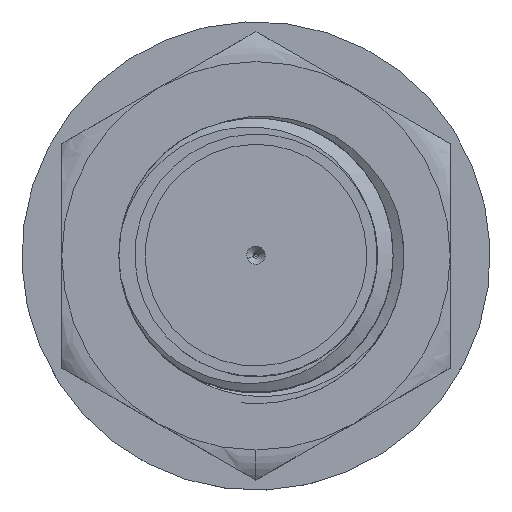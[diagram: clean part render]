
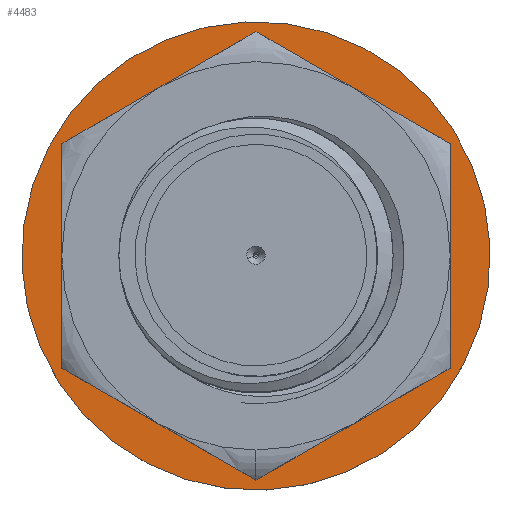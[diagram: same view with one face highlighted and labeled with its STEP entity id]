
A CAD part, top view. The second image highlights one B-rep face of the part: STEP entity #4483.
In plain terms, the highlighted planar face has unit normal (0, 0, 1).
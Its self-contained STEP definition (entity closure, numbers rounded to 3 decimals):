
#260 = DIRECTION ( 'NONE',  ( 1., 0., 0. ) ) ;
#1099 = DIRECTION ( 'NONE',  ( 0., 0., 1. ) ) ;
#2471 = CARTESIAN_POINT ( 'NONE',  ( 10.25, 0., 1. ) ) ;
#4483 = ADVANCED_FACE ( 'NONE', ( #9397, #20506 ), #7073, .T. ) ;
#5565 = ORIENTED_EDGE ( 'NONE', *, *, #12870, .F. ) ;
#5613 = EDGE_LOOP ( 'NONE', ( #5565, #22786 ) ) ;
#6371 = DIRECTION ( 'NONE',  ( 0., 0., 1. ) ) ;
#7073 = PLANE ( 'NONE',  #31179 ) ;
#8369 = DIRECTION ( 'NONE',  ( 1., 0., 0. ) ) ;
#9349 = EDGE_LOOP ( 'NONE', ( #14211, #19615 ) ) ;
#9397 = FACE_BOUND ( 'NONE', #5613, .T. ) ;
#12191 = DIRECTION ( 'NONE',  ( 1., 0., 0. ) ) ;
#12219 = DIRECTION ( 'NONE',  ( 0., 0., 1. ) ) ;
#12395 = VERTEX_POINT ( 'NONE', #2471 ) ;
#12870 = EDGE_CURVE ( 'NONE', #18152, #31332, #14592, .T. ) ;
#13920 = CARTESIAN_POINT ( 'NONE',  ( -10.25, 0., 1. ) ) ;
#14211 = ORIENTED_EDGE ( 'NONE', *, *, #28080, .T. ) ;
#14592 = CIRCLE ( 'NONE', #27132, 7.5 ) ;
#14975 = DIRECTION ( 'NONE',  ( 1., 0., 0. ) ) ;
#15323 = CARTESIAN_POINT ( 'NONE',  ( 0., 0., 1. ) ) ;
#15413 = CIRCLE ( 'NONE', #26816, 7.5 ) ;
#15778 = EDGE_CURVE ( 'NONE', #12395, #33175, #18133, .T. ) ;
#16566 = DIRECTION ( 'NONE',  ( 0., 0., 1. ) ) ;
#18133 = CIRCLE ( 'NONE', #30134, 10.25 ) ;
#18152 = VERTEX_POINT ( 'NONE', #18826 ) ;
#18826 = CARTESIAN_POINT ( 'NONE',  ( -7.5, 0., 1. ) ) ;
#19615 = ORIENTED_EDGE ( 'NONE', *, *, #15778, .T. ) ;
#20078 = CARTESIAN_POINT ( 'NONE',  ( 0., 0., 1. ) ) ;
#20273 = CARTESIAN_POINT ( 'NONE',  ( 0., 0., 1. ) ) ;
#20506 = FACE_OUTER_BOUND ( 'NONE', #9349, .T. ) ;
#21397 = CARTESIAN_POINT ( 'NONE',  ( 7.5, 0., 1. ) ) ;
#22704 = CIRCLE ( 'NONE', #31862, 10.25 ) ;
#22786 = ORIENTED_EDGE ( 'NONE', *, *, #33204, .F. ) ;
#26816 = AXIS2_PLACEMENT_3D ( 'NONE', #30206, #27523, #8369 ) ;
#27132 = AXIS2_PLACEMENT_3D ( 'NONE', #32676, #16566, #260 ) ;
#27523 = DIRECTION ( 'NONE',  ( 0., 0., 1. ) ) ;
#28080 = EDGE_CURVE ( 'NONE', #33175, #12395, #22704, .T. ) ;
#28674 = DIRECTION ( 'NONE',  ( 1., 0., 0. ) ) ;
#30134 = AXIS2_PLACEMENT_3D ( 'NONE', #20078, #1099, #12191 ) ;
#30206 = CARTESIAN_POINT ( 'NONE',  ( 0., 0., 1. ) ) ;
#31179 = AXIS2_PLACEMENT_3D ( 'NONE', #15323, #6371, #14975 ) ;
#31332 = VERTEX_POINT ( 'NONE', #21397 ) ;
#31862 = AXIS2_PLACEMENT_3D ( 'NONE', #20273, #12219, #28674 ) ;
#32676 = CARTESIAN_POINT ( 'NONE',  ( 0., 0., 1. ) ) ;
#33175 = VERTEX_POINT ( 'NONE', #13920 ) ;
#33204 = EDGE_CURVE ( 'NONE', #31332, #18152, #15413, .T. ) ;
